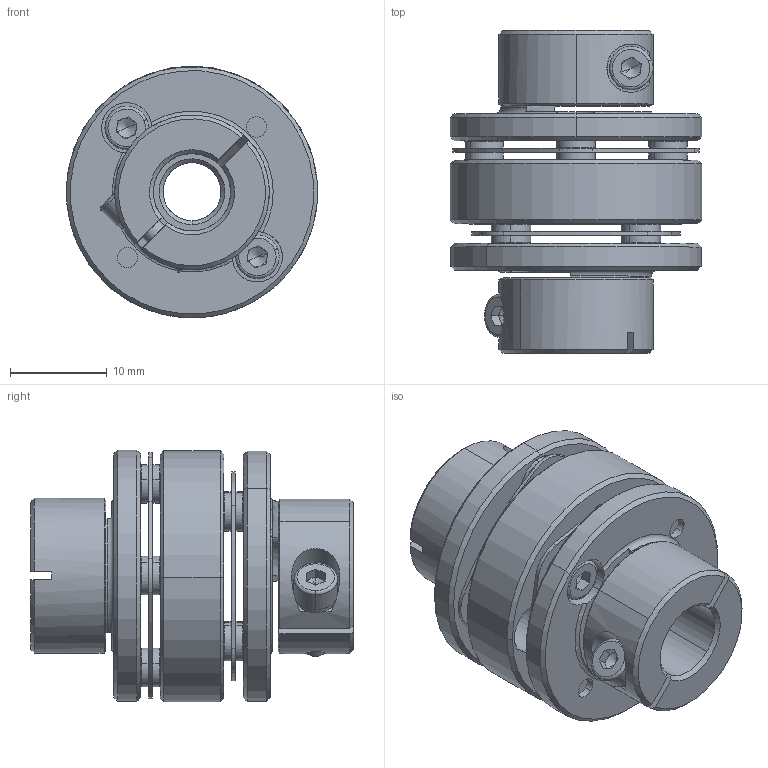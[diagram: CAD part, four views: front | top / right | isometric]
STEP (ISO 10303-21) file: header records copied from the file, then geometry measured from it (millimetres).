
FILE_DESCRIPTION (( 'STEP AP203' ), '1' );
FILE_NAME ('LE2-B-D26L35-6-8.STEP', '2021-11-01T05:47:26', ( '' ), ( '' ), 'SwSTEP 2.0', 'SolidWorks 2018', '' );
FILE_SCHEMA (( 'CONFIG_CONTROL_DESIGN' ));
Length unit declared in the file: millimetre
Products named in the file (1): LE2-B-D26L35-6-8
Bounding box: 26 x 33.4 x 26.06 mm (x, y, z)
Volume: 7627.9 mm3; surface area: 8327.7 mm2
Topology: 1 solids, 17 shells, 676 faces, 1573 edges, 945 vertices
Faces by surface type: cylinder 227, plane 220, cone 205, torus 24
Entity records: 19513 total; most frequent: DIRECTION 3652, CARTESIAN_POINT 3504, ORIENTED_EDGE 3106, EDGE_CURVE 1553, AXIS2_PLACEMENT_3D 1477, VERTEX_POINT 945, CIRCLE 800, EDGE_LOOP 784
